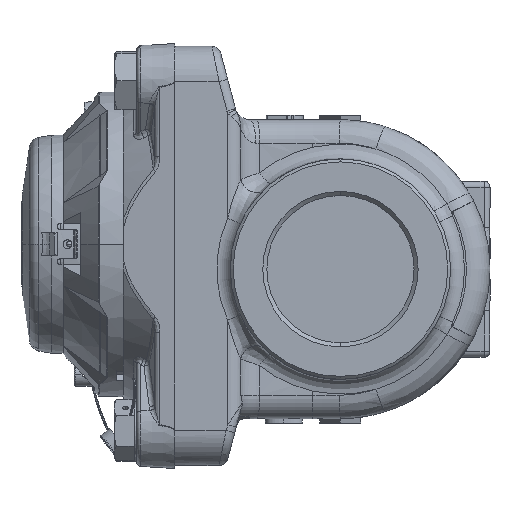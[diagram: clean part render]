
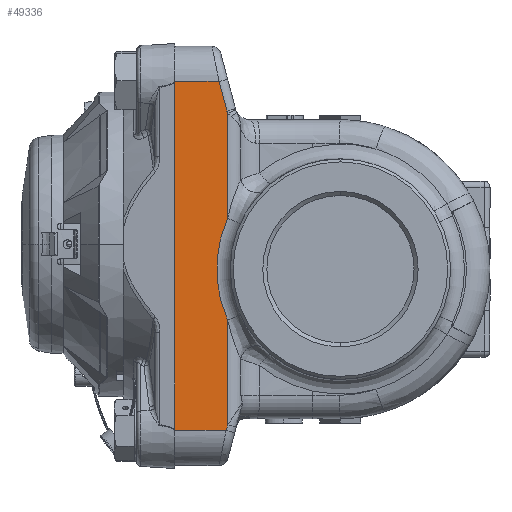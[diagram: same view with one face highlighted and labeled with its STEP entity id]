
A CAD part, left-side view. The second image highlights one B-rep face of the part: STEP entity #49336.
In plain terms, the highlighted planar face has unit normal (-1, 0, 0).
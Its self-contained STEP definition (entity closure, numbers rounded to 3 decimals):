
#463 = CARTESIAN_POINT ( 'NONE',  ( -53., 38.457, -17.379 ) ) ;
#810 = EDGE_CURVE ( 'NONE', #36518, #27183, #28820, .T. ) ;
#3837 = CIRCLE ( 'NONE', #24410, 8. ) ;
#5092 = LINE ( 'NONE', #21420, #53185 ) ;
#7342 = ORIENTED_EDGE ( 'NONE', *, *, #96693, .T. ) ;
#9249 = DIRECTION ( 'NONE',  ( 0., 0., 1. ) ) ;
#9703 = VECTOR ( 'NONE', #13399, 1000. ) ;
#10941 = DIRECTION ( 'NONE',  ( 1., 0., 0. ) ) ;
#11559 = EDGE_CURVE ( 'NONE', #80918, #78582, #44128, .T. ) ;
#12169 = CARTESIAN_POINT ( 'NONE',  ( -53., 38.457, 17.379 ) ) ;
#13399 = DIRECTION ( 'NONE',  ( 0., 0., 1. ) ) ;
#15466 = CARTESIAN_POINT ( 'NONE',  ( -53., 38.457, 52.794 ) ) ;
#15569 = CARTESIAN_POINT ( 'NONE',  ( -53., 44.397, 75.224 ) ) ;
#16703 = CARTESIAN_POINT ( 'NONE',  ( -53., 34.8, 0. ) ) ;
#17567 = LINE ( 'NONE', #79083, #85274 ) ;
#20903 = DIRECTION ( 'NONE',  ( 0., 0., 1. ) ) ;
#21420 = CARTESIAN_POINT ( 'NONE',  ( -53., 34.8, -55. ) ) ;
#23898 = DIRECTION ( 'NONE',  ( 0., 0., 1. ) ) ;
#24410 = AXIS2_PLACEMENT_3D ( 'NONE', #44671, #28406, #20903 ) ;
#26965 = LINE ( 'NONE', #93942, #82755 ) ;
#27034 = ORIENTED_EDGE ( 'NONE', *, *, #11559, .F. ) ;
#27183 = VERTEX_POINT ( 'NONE', #36394 ) ;
#28406 = DIRECTION ( 'NONE',  ( 1., 0., 0. ) ) ;
#28820 = LINE ( 'NONE', #89329, #9703 ) ;
#29459 = ORIENTED_EDGE ( 'NONE', *, *, #92326, .T. ) ;
#29830 = EDGE_CURVE ( 'NONE', #41156, #80918, #5092, .T. ) ;
#31122 = DIRECTION ( 'NONE',  ( -1., 0., 0. ) ) ;
#31850 = VECTOR ( 'NONE', #23898, 1000. ) ;
#32549 = EDGE_CURVE ( 'NONE', #44399, #42157, #39850, .T. ) ;
#33926 = VERTEX_POINT ( 'NONE', #55053 ) ;
#33940 = DIRECTION ( 'NONE',  ( 0., -0.259, 0.966 ) ) ;
#36394 = CARTESIAN_POINT ( 'NONE',  ( -53., 38.457, 53.199 ) ) ;
#36518 = VERTEX_POINT ( 'NONE', #12169 ) ;
#36718 = CARTESIAN_POINT ( 'NONE',  ( -53., 56.5, 0. ) ) ;
#36807 = CARTESIAN_POINT ( 'NONE',  ( -53., 38.691, 53.929 ) ) ;
#39850 = LINE ( 'NONE', #15569, #48983 ) ;
#40765 = AXIS2_PLACEMENT_3D ( 'NONE', #16703, #31122, #9249 ) ;
#41156 = VERTEX_POINT ( 'NONE', #51738 ) ;
#41463 = AXIS2_PLACEMENT_3D ( 'NONE', #58089, #10941, #65061 ) ;
#42157 = VERTEX_POINT ( 'NONE', #47679 ) ;
#44128 = LINE ( 'NONE', #36718, #69184 ) ;
#44399 = VERTEX_POINT ( 'NONE', #36807 ) ;
#44671 = CARTESIAN_POINT ( 'NONE',  ( -53., 30.963, 56. ) ) ;
#47679 = CARTESIAN_POINT ( 'NONE',  ( -53., 41.389, 64. ) ) ;
#48983 = VECTOR ( 'NONE', #68730, 1000. ) ;
#49255 = CARTESIAN_POINT ( 'NONE',  ( -53., 56.5, 64. ) ) ;
#49336 = ADVANCED_FACE ( 'NONE', ( #68380 ), #83708, .T. ) ;
#50669 = EDGE_CURVE ( 'NONE', #41156, #33926, #17567, .T. ) ;
#51738 = CARTESIAN_POINT ( 'NONE',  ( -53., 38.978, -55. ) ) ;
#53185 = VECTOR ( 'NONE', #80949, 1000. ) ;
#53804 = ORIENTED_EDGE ( 'NONE', *, *, #29830, .F. ) ;
#55053 = CARTESIAN_POINT ( 'NONE',  ( -53., 38.457, -53.057 ) ) ;
#55149 = EDGE_CURVE ( 'NONE', #27183, #44399, #3837, .T. ) ;
#58089 = CARTESIAN_POINT ( 'NONE',  ( -53., 0., 0. ) ) ;
#58568 = ORIENTED_EDGE ( 'NONE', *, *, #95949, .T. ) ;
#61170 = LINE ( 'NONE', #15466, #31850 ) ;
#65061 = DIRECTION ( 'NONE',  ( 0., 0., 1. ) ) ;
#65324 = CARTESIAN_POINT ( 'NONE',  ( -53., 56.5, -55. ) ) ;
#68380 = FACE_OUTER_BOUND ( 'NONE', #87677, .T. ) ;
#68730 = DIRECTION ( 'NONE',  ( 0., 0.259, 0.966 ) ) ;
#69184 = VECTOR ( 'NONE', #97241, 1000. ) ;
#73587 = ORIENTED_EDGE ( 'NONE', *, *, #810, .T. ) ;
#78582 = VERTEX_POINT ( 'NONE', #49255 ) ;
#79083 = CARTESIAN_POINT ( 'NONE',  ( -53., 36.368, -45.261 ) ) ;
#80031 = DIRECTION ( 'NONE',  ( 0., 1., 0. ) ) ;
#80918 = VERTEX_POINT ( 'NONE', #65324 ) ;
#80949 = DIRECTION ( 'NONE',  ( 0., 1., 0. ) ) ;
#82755 = VECTOR ( 'NONE', #80031, 1000. ) ;
#83708 = PLANE ( 'NONE',  #40765 ) ;
#85274 = VECTOR ( 'NONE', #33940, 1000. ) ;
#86740 = ORIENTED_EDGE ( 'NONE', *, *, #55149, .T. ) ;
#87677 = EDGE_LOOP ( 'NONE', ( #53804, #93229, #29459, #58568, #73587, #86740, #94144, #7342, #27034 ) ) ;
#89329 = CARTESIAN_POINT ( 'NONE',  ( -53., 38.457, 52.794 ) ) ;
#90533 = CIRCLE ( 'NONE', #41463, 42.202 ) ;
#92326 = EDGE_CURVE ( 'NONE', #33926, #96085, #61170, .T. ) ;
#93229 = ORIENTED_EDGE ( 'NONE', *, *, #50669, .T. ) ;
#93942 = CARTESIAN_POINT ( 'NONE',  ( -53., 34.8, 64. ) ) ;
#94144 = ORIENTED_EDGE ( 'NONE', *, *, #32549, .T. ) ;
#95949 = EDGE_CURVE ( 'NONE', #96085, #36518, #90533, .T. ) ;
#96085 = VERTEX_POINT ( 'NONE', #463 ) ;
#96693 = EDGE_CURVE ( 'NONE', #42157, #78582, #26965, .T. ) ;
#97241 = DIRECTION ( 'NONE',  ( 0., 0., 1. ) ) ;
